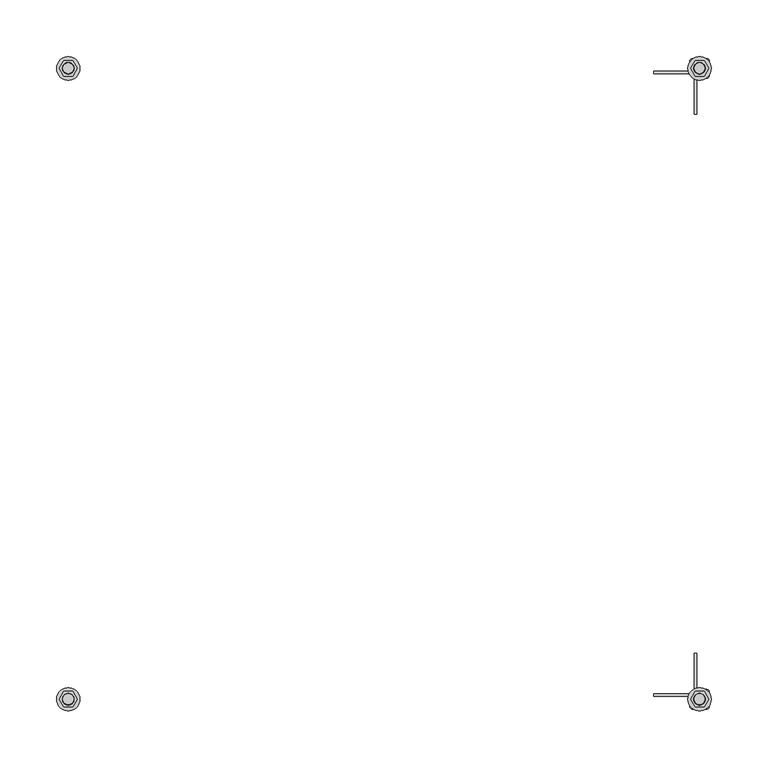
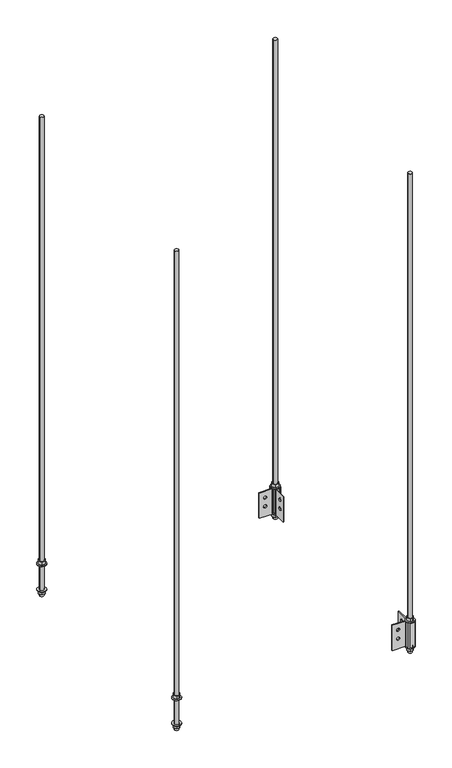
"""IFC4 building model written with IfcOpenShell, lengths in millimetres: proxy geometry."""

from ifc_helpers import new_model, si_unit, point, frame, frame_2d, origin, place, context, project, spatial, polyline, circle_curve, trimmed, segment, composite_curve, outline, extrude, source, transform, mapped, element, save
from ifc_brep_helpers import plane_surface, cylinder_surface, revolved_surface, advanced_brep


def generic_models_5859b9d8(model_context):
    return source(origin(), model_context, "Body", "SolidModel", [
        extrude(outline(composite_curve([segment(trimmed(circle_curve(frame_2d((-278.914225, 549.97985)), 10.31875), [point((-289.232975, 549.97985))], [point((-268.595475, 549.97985))], False, "CARTESIAN"), True, "CONTINUOUS"), segment(trimmed(circle_curve(frame_2d((-278.914225, 549.97985)), 10.31875), [point((-268.595475, 549.97985))], [point((-289.232975, 549.97985))], False, "CARTESIAN"), True, "CONTINUOUS")], self_intersect=False), holes=[composite_curve([segment(trimmed(circle_curve(frame_2d((-278.914225, 549.97985)), 5.159375), [point((-284.0736, 549.97985))], [point((-273.75485, 549.97985))], True, "CARTESIAN"), True, "CONTINUOUS"), segment(trimmed(circle_curve(frame_2d((-278.914225, 549.97985)), 5.159375), [point((-273.75485, 549.97985))], [point((-284.0736, 549.97985))], True, "CARTESIAN"), True, "CONTINUOUS")], self_intersect=False)]), frame((0.0, 0.0, -1.5875), z_axis=(0.0, 0.0, 1.0), x_axis=(1.0, 0.0, 0.0)), (0.0, 0.0, 1.0), 1.5875),
        extrude(outline(polyline([(-282.882975, 556.8539266), (-274.945475, 556.8539266), (-270.976725, 549.97985), (-274.945475, 543.1057734), (-282.882975, 543.1057734), (-286.851725, 549.97985), (-282.882975, 556.8539266)]), holes=[composite_curve([segment(trimmed(circle_curve(frame_2d((-278.914225, 549.97985)), 5.159375), [point((-284.0736, 549.97985))], [point((-273.75485, 549.97985))], True, "CARTESIAN"), True, "CONTINUOUS"), segment(trimmed(circle_curve(frame_2d((-278.914225, 549.97985)), 5.159375), [point((-273.75485, 549.97985))], [point((-284.0736, 549.97985))], True, "CARTESIAN"), True, "CONTINUOUS")], self_intersect=False)]), frame((0.0, 0.0, -9.525), z_axis=(0.0, 0.0, 1.0), x_axis=(1.0, 0.0, 0.0)), (0.0, 0.0, 1.0), 7.9375),
        extrude(outline(composite_curve([segment(trimmed(circle_curve(frame_2d((278.914225, 549.97985)), 10.31875), [point((268.595475, 549.97985))], [point((289.232975, 549.97985))], False, "CARTESIAN"), True, "CONTINUOUS"), segment(trimmed(circle_curve(frame_2d((278.914225, 549.97985)), 10.31875), [point((289.232975, 549.97985))], [point((268.595475, 549.97985))], False, "CARTESIAN"), True, "CONTINUOUS")], self_intersect=False), holes=[composite_curve([segment(trimmed(circle_curve(frame_2d((278.914225, 549.97985)), 5.159375), [point((273.75485, 549.97985))], [point((284.0736, 549.97985))], True, "CARTESIAN"), True, "CONTINUOUS"), segment(trimmed(circle_curve(frame_2d((278.914225, 549.97985)), 5.159375), [point((284.0736, 549.97985))], [point((273.75485, 549.97985))], True, "CARTESIAN"), True, "CONTINUOUS")], self_intersect=False)]), frame((0.0, 0.0, -1.5875), z_axis=(0.0, 0.0, 1.0), x_axis=(1.0, 0.0, 0.0)), (0.0, 0.0, 1.0), 1.5875),
        extrude(outline(polyline([(274.945475, 556.8539266), (282.882975, 556.8539266), (286.851725, 549.97985), (282.882975, 543.1057734), (274.945475, 543.1057734), (270.976725, 549.97985), (274.945475, 556.8539266)]), holes=[composite_curve([segment(trimmed(circle_curve(frame_2d((278.914225, 549.97985)), 5.159375), [point((273.75485, 549.97985))], [point((284.0736, 549.97985))], True, "CARTESIAN"), True, "CONTINUOUS"), segment(trimmed(circle_curve(frame_2d((278.914225, 549.97985)), 5.159375), [point((284.0736, 549.97985))], [point((273.75485, 549.97985))], True, "CARTESIAN"), True, "CONTINUOUS")], self_intersect=False)]), frame((0.0, 0.0, -9.525), z_axis=(0.0, 0.0, 1.0), x_axis=(1.0, 0.0, 0.0)), (0.0, 0.0, 1.0), 7.9375),
        extrude(outline(composite_curve([segment(trimmed(circle_curve(frame_2d((-278.914225, 549.97985)), 10.31875), [point((-289.232975, 549.97985))], [point((-268.595475, 549.97985))], False, "CARTESIAN"), True, "CONTINUOUS"), segment(trimmed(circle_curve(frame_2d((-278.914225, 549.97985)), 10.31875), [point((-268.595475, 549.97985))], [point((-289.232975, 549.97985))], False, "CARTESIAN"), True, "CONTINUOUS")], self_intersect=False), holes=[composite_curve([segment(trimmed(circle_curve(frame_2d((-278.914225, 549.97985)), 5.159375), [point((-284.0736, 549.97985))], [point((-273.75485, 549.97985))], True, "CARTESIAN"), True, "CONTINUOUS"), segment(trimmed(circle_curve(frame_2d((-278.914225, 549.97985)), 5.159375), [point((-273.75485, 549.97985))], [point((-284.0736, 549.97985))], True, "CARTESIAN"), True, "CONTINUOUS")], self_intersect=False)]), frame((0.0, 0.0, 63.5), z_axis=(0.0, 0.0, 1.0), x_axis=(1.0, 0.0, 0.0)), (0.0, 0.0, 1.0), 1.5875),
        extrude(outline(polyline([(-282.882975, 556.8539266), (-274.945475, 556.8539266), (-270.976725, 549.97985), (-274.945475, 543.1057734), (-282.882975, 543.1057734), (-286.851725, 549.97985), (-282.882975, 556.8539266)]), holes=[composite_curve([segment(trimmed(circle_curve(frame_2d((-278.914225, 549.97985)), 5.159375), [point((-284.0736, 549.97985))], [point((-273.75485, 549.97985))], True, "CARTESIAN"), True, "CONTINUOUS"), segment(trimmed(circle_curve(frame_2d((-278.914225, 549.97985)), 5.159375), [point((-273.75485, 549.97985))], [point((-284.0736, 549.97985))], True, "CARTESIAN"), True, "CONTINUOUS")], self_intersect=False)]), frame((0.0, 0.0, 65.0875), z_axis=(0.0, 0.0, 1.0), x_axis=(1.0, 0.0, 0.0)), (0.0, 0.0, 1.0), 7.9375),
        extrude(outline(composite_curve([segment(trimmed(circle_curve(frame_2d((278.914225, 549.97985)), 10.31875), [point((268.595475, 549.97985))], [point((289.232975, 549.97985))], False, "CARTESIAN"), True, "CONTINUOUS"), segment(trimmed(circle_curve(frame_2d((278.914225, 549.97985)), 10.31875), [point((289.232975, 549.97985))], [point((268.595475, 549.97985))], False, "CARTESIAN"), True, "CONTINUOUS")], self_intersect=False), holes=[composite_curve([segment(trimmed(circle_curve(frame_2d((278.914225, 549.97985)), 5.159375), [point((273.75485, 549.97985))], [point((284.0736, 549.97985))], True, "CARTESIAN"), True, "CONTINUOUS"), segment(trimmed(circle_curve(frame_2d((278.914225, 549.97985)), 5.159375), [point((284.0736, 549.97985))], [point((273.75485, 549.97985))], True, "CARTESIAN"), True, "CONTINUOUS")], self_intersect=False)]), frame((0.0, 0.0, 63.5), z_axis=(0.0, 0.0, 1.0), x_axis=(1.0, 0.0, 0.0)), (0.0, 0.0, 1.0), 1.5875),
        extrude(outline(polyline([(274.945475, 556.8539266), (282.882975, 556.8539266), (286.851725, 549.97985), (282.882975, 543.1057734), (274.945475, 543.1057734), (270.976725, 549.97985), (274.945475, 556.8539266)]), holes=[composite_curve([segment(trimmed(circle_curve(frame_2d((278.914225, 549.97985)), 5.159375), [point((273.75485, 549.97985))], [point((284.0736, 549.97985))], True, "CARTESIAN"), True, "CONTINUOUS"), segment(trimmed(circle_curve(frame_2d((278.914225, 549.97985)), 5.159375), [point((284.0736, 549.97985))], [point((273.75485, 549.97985))], True, "CARTESIAN"), True, "CONTINUOUS")], self_intersect=False)]), frame((0.0, 0.0, 65.0875), z_axis=(0.0, 0.0, 1.0), x_axis=(1.0, 0.0, 0.0)), (0.0, 0.0, 1.0), 7.9375),
        extrude(outline(composite_curve([segment(trimmed(circle_curve(frame_2d((278.914225, -7.8486)), 10.31875), [point((268.595475, -7.8486))], [point((289.232975, -7.8486))], False, "CARTESIAN"), True, "CONTINUOUS"), segment(trimmed(circle_curve(frame_2d((278.914225, -7.8486)), 10.31875), [point((289.232975, -7.8486))], [point((268.595475, -7.8486))], False, "CARTESIAN"), True, "CONTINUOUS")], self_intersect=False), holes=[composite_curve([segment(trimmed(circle_curve(frame_2d((278.914225, -7.8486)), 5.159375), [point((273.75485, -7.8486))], [point((284.0736, -7.8486))], True, "CARTESIAN"), True, "CONTINUOUS"), segment(trimmed(circle_curve(frame_2d((278.914225, -7.8486)), 5.159375), [point((284.0736, -7.8486))], [point((273.75485, -7.8486))], True, "CARTESIAN"), True, "CONTINUOUS")], self_intersect=False)]), frame((0.0, 0.0, -1.5875), z_axis=(0.0, 0.0, 1.0), x_axis=(1.0, 0.0, 0.0)), (0.0, 0.0, 1.0), 1.5875),
        extrude(outline(polyline([(274.945475, -0.9745234), (282.882975, -0.9745234), (286.851725, -7.8486), (282.882975, -14.7226766), (274.945475, -14.7226766), (270.976725, -7.8486), (274.945475, -0.9745234)]), holes=[composite_curve([segment(trimmed(circle_curve(frame_2d((278.914225, -7.8486)), 5.159375), [point((273.75485, -7.8486))], [point((284.0736, -7.8486))], True, "CARTESIAN"), True, "CONTINUOUS"), segment(trimmed(circle_curve(frame_2d((278.914225, -7.8486)), 5.159375), [point((284.0736, -7.8486))], [point((273.75485, -7.8486))], True, "CARTESIAN"), True, "CONTINUOUS")], self_intersect=False)]), frame((0.0, 0.0, -9.525), z_axis=(0.0, 0.0, 1.0), x_axis=(1.0, 0.0, 0.0)), (0.0, 0.0, 1.0), 7.9375),
        extrude(outline(composite_curve([segment(trimmed(circle_curve(frame_2d((278.914225, -7.8486)), 10.31875), [point((268.595475, -7.8486))], [point((289.232975, -7.8486))], False, "CARTESIAN"), True, "CONTINUOUS"), segment(trimmed(circle_curve(frame_2d((278.914225, -7.8486)), 10.31875), [point((289.232975, -7.8486))], [point((268.595475, -7.8486))], False, "CARTESIAN"), True, "CONTINUOUS")], self_intersect=False), holes=[composite_curve([segment(trimmed(circle_curve(frame_2d((278.914225, -7.8486)), 5.159375), [point((273.75485, -7.8486))], [point((284.0736, -7.8486))], True, "CARTESIAN"), True, "CONTINUOUS"), segment(trimmed(circle_curve(frame_2d((278.914225, -7.8486)), 5.159375), [point((284.0736, -7.8486))], [point((273.75485, -7.8486))], True, "CARTESIAN"), True, "CONTINUOUS")], self_intersect=False)]), frame((0.0, 0.0, 63.5), z_axis=(0.0, 0.0, 1.0), x_axis=(1.0, 0.0, 0.0)), (0.0, 0.0, 1.0), 1.5875),
        extrude(outline(polyline([(274.945475, -0.9745234), (282.882975, -0.9745234), (286.851725, -7.8486), (282.882975, -14.7226766), (274.945475, -14.7226766), (270.976725, -7.8486), (274.945475, -0.9745234)]), holes=[composite_curve([segment(trimmed(circle_curve(frame_2d((278.914225, -7.8486)), 5.159375), [point((273.75485, -7.8486))], [point((284.0736, -7.8486))], True, "CARTESIAN"), True, "CONTINUOUS"), segment(trimmed(circle_curve(frame_2d((278.914225, -7.8486)), 5.159375), [point((284.0736, -7.8486))], [point((273.75485, -7.8486))], True, "CARTESIAN"), True, "CONTINUOUS")], self_intersect=False)]), frame((0.0, 0.0, 65.0875), z_axis=(0.0, 0.0, 1.0), x_axis=(1.0, 0.0, 0.0)), (0.0, 0.0, 1.0), 7.9375),
        extrude(outline(composite_curve([segment(trimmed(circle_curve(frame_2d((-278.914225, -7.8486)), 10.31875), [point((-289.232975, -7.8486))], [point((-268.595475, -7.8486))], False, "CARTESIAN"), True, "CONTINUOUS"), segment(trimmed(circle_curve(frame_2d((-278.914225, -7.8486)), 10.31875), [point((-268.595475, -7.8486))], [point((-289.232975, -7.8486))], False, "CARTESIAN"), True, "CONTINUOUS")], self_intersect=False), holes=[composite_curve([segment(trimmed(circle_curve(frame_2d((-278.914225, -7.8486)), 5.159375), [point((-284.0736, -7.8486))], [point((-273.75485, -7.8486))], True, "CARTESIAN"), True, "CONTINUOUS"), segment(trimmed(circle_curve(frame_2d((-278.914225, -7.8486)), 5.159375), [point((-273.75485, -7.8486))], [point((-284.0736, -7.8486))], True, "CARTESIAN"), True, "CONTINUOUS")], self_intersect=False)]), frame((0.0, 0.0, 63.5), z_axis=(0.0, 0.0, 1.0), x_axis=(1.0, 0.0, 0.0)), (0.0, 0.0, 1.0), 1.5875),
        extrude(outline(polyline([(-282.882975, -0.9745234), (-274.945475, -0.9745234), (-270.976725, -7.8486), (-274.945475, -14.7226766), (-282.882975, -14.7226766), (-286.851725, -7.8486), (-282.882975, -0.9745234)]), holes=[composite_curve([segment(trimmed(circle_curve(frame_2d((-278.914225, -7.8486)), 5.159375), [point((-284.0736, -7.8486))], [point((-273.75485, -7.8486))], True, "CARTESIAN"), True, "CONTINUOUS"), segment(trimmed(circle_curve(frame_2d((-278.914225, -7.8486)), 5.159375), [point((-273.75485, -7.8486))], [point((-284.0736, -7.8486))], True, "CARTESIAN"), True, "CONTINUOUS")], self_intersect=False)]), frame((0.0, 0.0, 65.0875), z_axis=(0.0, 0.0, 1.0), x_axis=(1.0, 0.0, 0.0)), (0.0, 0.0, 1.0), 7.9375),
        extrude(outline(composite_curve([segment(trimmed(circle_curve(frame_2d((-278.914225, -7.8486)), 10.31875), [point((-289.232975, -7.8486))], [point((-268.595475, -7.8486))], False, "CARTESIAN"), True, "CONTINUOUS"), segment(trimmed(circle_curve(frame_2d((-278.914225, -7.8486)), 10.31875), [point((-268.595475, -7.8486))], [point((-289.232975, -7.8486))], False, "CARTESIAN"), True, "CONTINUOUS")], self_intersect=False), holes=[composite_curve([segment(trimmed(circle_curve(frame_2d((-278.914225, -7.8486)), 5.159375), [point((-284.0736, -7.8486))], [point((-273.75485, -7.8486))], True, "CARTESIAN"), True, "CONTINUOUS"), segment(trimmed(circle_curve(frame_2d((-278.914225, -7.8486)), 5.159375), [point((-273.75485, -7.8486))], [point((-284.0736, -7.8486))], True, "CARTESIAN"), True, "CONTINUOUS")], self_intersect=False)]), frame((0.0, 0.0, -1.5875), z_axis=(0.0, 0.0, 1.0), x_axis=(1.0, 0.0, 0.0)), (0.0, 0.0, 1.0), 1.5875),
        extrude(outline(polyline([(-282.882975, -0.9745234), (-274.945475, -0.9745234), (-270.976725, -7.8486), (-274.945475, -14.7226766), (-282.882975, -14.7226766), (-286.851725, -7.8486), (-282.882975, -0.9745234)]), holes=[composite_curve([segment(trimmed(circle_curve(frame_2d((-278.914225, -7.8486)), 5.159375), [point((-284.0736, -7.8486))], [point((-273.75485, -7.8486))], True, "CARTESIAN"), True, "CONTINUOUS"), segment(trimmed(circle_curve(frame_2d((-278.914225, -7.8486)), 5.159375), [point((-273.75485, -7.8486))], [point((-284.0736, -7.8486))], True, "CARTESIAN"), True, "CONTINUOUS")], self_intersect=False)]), frame((0.0, 0.0, -9.525), z_axis=(0.0, 0.0, 1.0), x_axis=(1.0, 0.0, 0.0)), (0.0, 0.0, 1.0), 7.9375),
        extrude(outline(composite_curve([segment(trimmed(circle_curve(frame_2d((278.914225, 549.97985)), 4.7625), [point((274.151725, 549.97985))], [point((283.676725, 549.97985))], False, "CARTESIAN"), True, "CONTINUOUS"), segment(trimmed(circle_curve(frame_2d((278.914225, 549.97985)), 4.7625), [point((283.676725, 549.97985))], [point((274.151725, 549.97985))], False, "CARTESIAN"), True, "CONTINUOUS")], self_intersect=False)), frame((0.0, 0.0, -15.875), z_axis=(0.0, 0.0, 1.0), x_axis=(1.0, 0.0, 0.0)), (0.0, 0.0, 1.0), 1209.675),
        extrude(outline(composite_curve([segment(trimmed(circle_curve(frame_2d((-278.914225, 549.97985)), 4.7625), [point((-283.676725, 549.97985))], [point((-274.151725, 549.97985))], False, "CARTESIAN"), True, "CONTINUOUS"), segment(trimmed(circle_curve(frame_2d((-278.914225, 549.97985)), 4.7625), [point((-274.151725, 549.97985))], [point((-283.676725, 549.97985))], False, "CARTESIAN"), True, "CONTINUOUS")], self_intersect=False)), frame((0.0, 0.0, -15.875), z_axis=(0.0, 0.0, 1.0), x_axis=(1.0, 0.0, 0.0)), (0.0, 0.0, 1.0), 1209.675),
        extrude(outline(composite_curve([segment(trimmed(circle_curve(frame_2d((278.914225, -7.8486)), 4.7625), [point((274.151725, -7.8486))], [point((283.676725, -7.8486))], False, "CARTESIAN"), True, "CONTINUOUS"), segment(trimmed(circle_curve(frame_2d((278.914225, -7.8486)), 4.7625), [point((283.676725, -7.8486))], [point((274.151725, -7.8486))], False, "CARTESIAN"), True, "CONTINUOUS")], self_intersect=False)), frame((0.0, 0.0, -15.875), z_axis=(0.0, 0.0, 1.0), x_axis=(1.0, 0.0, 0.0)), (0.0, 0.0, 1.0), 1209.675),
        extrude(outline(composite_curve([segment(trimmed(circle_curve(frame_2d((-278.914225, -7.8486)), 4.7625), [point((-283.676725, -7.8486))], [point((-274.151725, -7.8486))], False, "CARTESIAN"), True, "CONTINUOUS"), segment(trimmed(circle_curve(frame_2d((-278.914225, -7.8486)), 4.7625), [point((-274.151725, -7.8486))], [point((-283.676725, -7.8486))], False, "CARTESIAN"), True, "CONTINUOUS")], self_intersect=False)), frame((0.0, 0.0, -15.875), z_axis=(0.0, 0.0, 1.0), x_axis=(1.0, 0.0, 0.0)), (0.0, 0.0, 1.0), 1209.675),
        advanced_brep(
        [(238.248825, 547.31285, 63.5), (238.248825, 545.30625, 63.5), (269.389225, 545.30625, 63.5), (272.157825, 548.07485, 63.5), (272.157825, 555.97425, 63.5), (272.919825, 556.73625, 63.5), (284.908625, 556.73625, 63.5), (285.670625, 555.97425, 63.5), (285.670625, 543.98545, 63.5), (284.908625, 543.22345, 63.5), (277.009225, 543.22345, 63.5), (274.240625, 540.45485, 63.5), (274.240625, 509.31445, 63.5), (276.247225, 509.31445, 63.5), (276.247225, 540.45485, 63.5), (277.009225, 541.21685, 63.5), (284.908625, 541.21685, 63.5), (287.677225, 543.98545, 63.5), (287.677225, 555.97425, 63.5), (284.908625, 558.74285, 63.5), (272.919825, 558.74285, 63.5), (270.151225, 555.97425, 63.5), (270.151225, 548.07485, 63.5), (269.389225, 547.31285, 63.5), (238.248825, 547.31285, 0.0), (269.389225, 547.31285, 0.0), (270.151225, 548.07485, 0.0), (270.151225, 555.97425, 0.0), (272.919825, 558.74285, 0.0), (284.908625, 558.74285, 0.0), (287.677225, 555.97425, 0.0), (287.677225, 543.98545, 0.0), (284.908625, 541.21685, 0.0), (277.009225, 541.21685, 0.0), (276.247225, 540.45485, 0.0), (276.247225, 509.31445, 0.0), (274.240625, 509.31445, 0.0), (274.240625, 540.45485, 0.0), (277.009225, 543.22345, 0.0), (284.908625, 543.22345, 0.0), (285.670625, 543.98545, 0.0), (285.670625, 555.97425, 0.0), (284.908625, 556.73625, 0.0), (272.919825, 556.73625, 0.0), (272.157825, 555.97425, 0.0), (272.157825, 548.07485, 0.0), (269.389225, 545.30625, 0.0), (238.248825, 545.30625, 0.0), (255.584325, 545.30625, 25.4), (248.446925, 545.30625, 25.4), (255.584325, 545.30625, 47.625), (248.446925, 545.30625, 47.625), (274.240625, 519.51255, 47.625), (274.240625, 526.64995, 47.625), (274.240625, 519.51255, 25.4), (274.240625, 526.64995, 25.4), (276.247225, 526.64995, 47.625), (276.247225, 519.51255, 47.625), (276.247225, 526.64995, 25.4), (276.247225, 519.51255, 25.4), (248.446925, 547.31285, 25.4), (255.584325, 547.31285, 25.4), (248.446925, 547.31285, 47.625), (255.584325, 547.31285, 47.625)],
        [
            (0, 1),
            (1, 2),
            (2, 3, circle_curve(frame((269.389225, 548.07485, 63.5), z_axis=(0.0, 0.0, 1.0), x_axis=(1.0, 0.0, 0.0)), 2.7686)),
            (3, 4),
            (4, 5, circle_curve(frame((272.919825, 555.97425, 63.5), z_axis=(0.0, 0.0, -1.0), x_axis=(1.0, 0.0, 0.0)), 0.762)),
            (5, 6),
            (6, 7, circle_curve(frame((284.908625, 555.97425, 63.5), z_axis=(0.0, 0.0, -1.0), x_axis=(1.0, 0.0, 0.0)), 0.762)),
            (7, 8),
            (8, 9, circle_curve(frame((284.908625, 543.98545, 63.5), z_axis=(0.0, 0.0, -1.0), x_axis=(1.0, 0.0, 0.0)), 0.762)),
            (9, 10),
            (10, 11, circle_curve(frame((277.009225, 540.45485, 63.5), z_axis=(0.0, 0.0, 1.0), x_axis=(1.0, 0.0, 0.0)), 2.7686)),
            (11, 12),
            (12, 13),
            (13, 14),
            (14, 15, circle_curve(frame((277.009225, 540.45485, 63.5), z_axis=(0.0, 0.0, -1.0), x_axis=(1.0, 0.0, 0.0)), 0.762)),
            (15, 16),
            (16, 17, circle_curve(frame((284.908625, 543.98545, 63.5), z_axis=(0.0, 0.0, 1.0), x_axis=(1.0, 0.0, 0.0)), 2.7686)),
            (17, 18),
            (18, 19, circle_curve(frame((284.908625, 555.97425, 63.5), z_axis=(0.0, 0.0, 1.0), x_axis=(1.0, 0.0, 0.0)), 2.7686)),
            (19, 20),
            (20, 21, circle_curve(frame((272.919825, 555.97425, 63.5), z_axis=(0.0, 0.0, 1.0), x_axis=(1.0, 0.0, 0.0)), 2.7686)),
            (21, 22),
            (22, 23, circle_curve(frame((269.389225, 548.07485, 63.5), z_axis=(0.0, 0.0, -1.0), x_axis=(1.0, 0.0, 0.0)), 0.762)),
            (23, 0),
            (24, 25),
            (25, 26, circle_curve(frame((269.389225, 548.07485, 0.0), z_axis=(0.0, 0.0, 1.0), x_axis=(1.0, 0.0, 0.0)), 0.762)),
            (26, 27),
            (27, 28, circle_curve(frame((272.919825, 555.97425, 0.0), z_axis=(0.0, 0.0, -1.0), x_axis=(1.0, 0.0, 0.0)), 2.7686)),
            (28, 29),
            (29, 30, circle_curve(frame((284.908625, 555.97425, 0.0), z_axis=(0.0, 0.0, -1.0), x_axis=(1.0, 0.0, 0.0)), 2.7686)),
            (30, 31),
            (31, 32, circle_curve(frame((284.908625, 543.98545, 0.0), z_axis=(0.0, 0.0, -1.0), x_axis=(1.0, 0.0, 0.0)), 2.7686)),
            (32, 33),
            (33, 34, circle_curve(frame((277.009225, 540.45485, 0.0), z_axis=(0.0, 0.0, 1.0), x_axis=(1.0, 0.0, 0.0)), 0.762)),
            (34, 35),
            (35, 36),
            (36, 37),
            (37, 38, circle_curve(frame((277.009225, 540.45485, 0.0), z_axis=(0.0, 0.0, -1.0), x_axis=(1.0, 0.0, 0.0)), 2.7686)),
            (38, 39),
            (39, 40, circle_curve(frame((284.908625, 543.98545, 0.0), z_axis=(0.0, 0.0, 1.0), x_axis=(1.0, 0.0, 0.0)), 0.762)),
            (40, 41),
            (41, 42, circle_curve(frame((284.908625, 555.97425, 0.0), z_axis=(0.0, 0.0, 1.0), x_axis=(1.0, 0.0, 0.0)), 0.762)),
            (42, 43),
            (43, 44, circle_curve(frame((272.919825, 555.97425, 0.0), z_axis=(0.0, 0.0, 1.0), x_axis=(1.0, 0.0, 0.0)), 0.762)),
            (44, 45),
            (45, 46, circle_curve(frame((269.389225, 548.07485, 0.0), z_axis=(0.0, 0.0, -1.0), x_axis=(1.0, 0.0, 0.0)), 2.7686)),
            (46, 47),
            (47, 24),
            (0, 24),
            (47, 1),
            (46, 2),
            (48, 49, circle_curve(frame((252.015625, 545.30625, 25.4), z_axis=(0.0, 1.0, 0.0), x_axis=(-1.0, 0.0, 0.0)), 3.5687)),
            (49, 48, circle_curve(frame((252.015625, 545.30625, 25.4), z_axis=(0.0, 1.0, 0.0), x_axis=(-1.0, 0.0, 0.0)), 3.5687)),
            (50, 51, circle_curve(frame((252.015625, 545.30625, 47.625), z_axis=(0.0, 1.0, 0.0), x_axis=(-1.0, 0.0, 0.0)), 3.5687)),
            (51, 50, circle_curve(frame((252.015625, 545.30625, 47.625), z_axis=(0.0, 1.0, 0.0), x_axis=(-1.0, 0.0, 0.0)), 3.5687)),
            (45, 3),
            (44, 4),
            (43, 5),
            (42, 6),
            (41, 7),
            (40, 8),
            (39, 9),
            (38, 10),
            (37, 11),
            (36, 12),
            (52, 53, circle_curve(frame((274.240625, 523.08125, 47.625), z_axis=(1.0, 0.0, 0.0), x_axis=(0.0, -1.0, 0.0)), 3.5687)),
            (53, 52, circle_curve(frame((274.240625, 523.08125, 47.625), z_axis=(1.0, 0.0, 0.0), x_axis=(0.0, -1.0, 0.0)), 3.5687)),
            (54, 55, circle_curve(frame((274.240625, 523.08125, 25.4), z_axis=(1.0, 0.0, 0.0), x_axis=(0.0, -1.0, 0.0)), 3.5687)),
            (55, 54, circle_curve(frame((274.240625, 523.08125, 25.4), z_axis=(1.0, 0.0, 0.0), x_axis=(0.0, -1.0, 0.0)), 3.5687)),
            (35, 13),
            (34, 14),
            (56, 57, circle_curve(frame((276.247225, 523.08125, 47.625), z_axis=(-1.0, 0.0, 0.0), x_axis=(0.0, -1.0, 0.0)), 3.5687)),
            (57, 56, circle_curve(frame((276.247225, 523.08125, 47.625), z_axis=(-1.0, 0.0, 0.0), x_axis=(0.0, -1.0, 0.0)), 3.5687)),
            (58, 59, circle_curve(frame((276.247225, 523.08125, 25.4), z_axis=(-1.0, 0.0, 0.0), x_axis=(0.0, -1.0, 0.0)), 3.5687)),
            (59, 58, circle_curve(frame((276.247225, 523.08125, 25.4), z_axis=(-1.0, 0.0, 0.0), x_axis=(0.0, -1.0, 0.0)), 3.5687)),
            (33, 15),
            (32, 16),
            (31, 17),
            (30, 18),
            (29, 19),
            (28, 20),
            (27, 21),
            (26, 22),
            (25, 23),
            (60, 61, circle_curve(frame((252.015625, 547.31285, 25.4), z_axis=(0.0, -1.0, 0.0), x_axis=(-1.0, 0.0, 0.0)), 3.5687)),
            (61, 60, circle_curve(frame((252.015625, 547.31285, 25.4), z_axis=(0.0, -1.0, 0.0), x_axis=(-1.0, 0.0, 0.0)), 3.5687)),
            (62, 63, circle_curve(frame((252.015625, 547.31285, 47.625), z_axis=(0.0, -1.0, 0.0), x_axis=(-1.0, 0.0, 0.0)), 3.5687)),
            (63, 62, circle_curve(frame((252.015625, 547.31285, 47.625), z_axis=(0.0, -1.0, 0.0), x_axis=(-1.0, 0.0, 0.0)), 3.5687)),
            (56, 53),
            (52, 57),
            (58, 55),
            (54, 59),
            (48, 61),
            (60, 49),
            (50, 63),
            (62, 51),
        ],
        [
            plane_surface(frame((238.248825, 545.30625, 63.5), z_axis=(0.0, 0.0, 1.0), x_axis=(0.0, -1.0, 0.0))),
            plane_surface(frame((238.248825, 545.30625, 0.0), z_axis=(0.0, 0.0, -1.0), x_axis=(0.0, 1.0, 0.0))),
            plane_surface(frame((238.248825, 547.31285, 63.5), z_axis=(-1.0, 0.0, 0.0), x_axis=(0.0, 0.0, -1.0))),
            plane_surface(frame((238.248825, 545.30625, 63.5), z_axis=(0.0, -1.0, 0.0), x_axis=(0.0, 0.0, -1.0))),
            cylinder_surface(frame((269.389225, 548.07485, 0.0), z_axis=(0.0, 0.0, 1.0), x_axis=(1.0, 0.0, 0.0)), 2.7686),
            plane_surface(frame((272.157825, 548.07485, 63.5), z_axis=(1.0, 0.0, 0.0), x_axis=(0.0, 0.0, -1.0))),
            revolved_surface(polyline([(273.681825, 555.97425, 0.0), (273.681825, 555.97425, 63.5)]), (272.919825, 555.97425, 0.0), (0.0, 0.0, -1.0)),
            plane_surface(frame((272.919825, 556.73625, 63.5), z_axis=(0.0, -1.0, 0.0), x_axis=(0.0, 0.0, -1.0))),
            revolved_surface(polyline([(285.670625, 555.97425, 0.0), (285.670625, 555.97425, 63.5)]), (284.908625, 555.97425, 0.0), (0.0, 0.0, -1.0)),
            plane_surface(frame((285.670625, 555.97425, 63.5), z_axis=(-1.0, 0.0, 0.0), x_axis=(0.0, 0.0, -1.0))),
            revolved_surface(polyline([(285.670625, 543.98545, 0.0), (285.670625, 543.98545, 63.5)]), (284.908625, 543.98545, 0.0), (0.0, 0.0, -1.0)),
            plane_surface(frame((284.908625, 543.22345, 63.5), z_axis=(0.0, 1.0, 0.0), x_axis=(0.0, 0.0, -1.0))),
            cylinder_surface(frame((277.009225, 540.45485, 0.0), z_axis=(0.0, 0.0, 1.0), x_axis=(1.0, 0.0, 0.0)), 2.7686),
            plane_surface(frame((274.240625, 540.45485, 63.5), z_axis=(-1.0, 0.0, 0.0), x_axis=(0.0, 0.0, -1.0))),
            plane_surface(frame((274.240625, 509.31445, 63.5), z_axis=(0.0, -1.0, 0.0), x_axis=(0.0, 0.0, -1.0))),
            plane_surface(frame((276.247225, 509.31445, 63.5), z_axis=(1.0, 0.0, 0.0), x_axis=(0.0, 0.0, -1.0))),
            revolved_surface(polyline([(277.771225, 540.45485, 0.0), (277.771225, 540.45485, 63.5)]), (277.009225, 540.45485, 0.0), (0.0, 0.0, -1.0)),
            plane_surface(frame((277.009225, 541.21685, 63.5), z_axis=(0.0, -1.0, 0.0), x_axis=(0.0, 0.0, -1.0))),
            cylinder_surface(frame((284.908625, 543.98545, 0.0), z_axis=(0.0, 0.0, 1.0), x_axis=(1.0, 0.0, 0.0)), 2.7686),
            plane_surface(frame((287.677225, 543.98545, 63.5), z_axis=(1.0, 0.0, 0.0), x_axis=(0.0, 0.0, -1.0))),
            cylinder_surface(frame((284.908625, 555.97425, 0.0), z_axis=(0.0, 0.0, 1.0), x_axis=(1.0, 0.0, 0.0)), 2.7686),
            plane_surface(frame((284.908625, 558.74285, 63.5), z_axis=(0.0, 1.0, 0.0), x_axis=(0.0, 0.0, -1.0))),
            cylinder_surface(frame((272.919825, 555.97425, 0.0), z_axis=(0.0, 0.0, 1.0), x_axis=(1.0, 0.0, 0.0)), 2.7686),
            plane_surface(frame((270.151225, 555.97425, 63.5), z_axis=(-1.0, 0.0, 0.0), x_axis=(0.0, 0.0, -1.0))),
            revolved_surface(polyline([(270.151225, 548.07485, 0.0), (270.151225, 548.07485, 63.5)]), (269.389225, 548.07485, 0.0), (0.0, 0.0, -1.0)),
            plane_surface(frame((269.389225, 547.31285, 63.5), z_axis=(0.0, 1.0, 0.0), x_axis=(0.0, 0.0, -1.0))),
            revolved_surface(polyline([(274.240625, 519.5125499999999, 47.625), (276.247225, 519.5125499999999, 47.625)]), (278.914225, 523.08125, 47.625), (-1.0, 0.0, 0.0)),
            revolved_surface(polyline([(274.240625, 519.5125499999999, 25.4), (276.247225, 519.5125499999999, 25.4)]), (278.914225, 523.08125, 25.4), (-1.0, 0.0, 0.0)),
            revolved_surface(polyline([(248.446925, 547.31285, 25.4), (248.446925, 545.30625, 25.4)]), (252.015625, 542.13125, 25.4), (0.0, 1.0, 0.0)),
            revolved_surface(polyline([(248.446925, 547.31285, 47.625), (248.446925, 545.30625, 47.625)]), (252.015625, 549.97985, 47.625), (0.0, 1.0, 0.0)),
        ],
        [
            (0, [[1, 2, 3, 4, 5, 6, 7, 8, 9, 10, 11, 12, 13, 14, 15, 16, 17, 18, 19, 20, 21, 22, 23, 24]]),
            (1, [[25, 26, 27, 28, 29, 30, 31, 32, 33, 34, 35, 36, 37, 38, 39, 40, 41, 42, 43, 44, 45, 46, 47, 48]]),
            (2, [[-1, 49, -48, 50]]),
            (3, [[-2, -50, -47, 51], [52, 53], [54, 55]]),
            (4, [[-3, -51, -46, 56]]),
            (5, [[-4, -56, -45, 57]]),
            (6, [[-5, -57, -44, 58]]),
            (7, [[-6, -58, -43, 59]]),
            (8, [[-7, -59, -42, 60]]),
            (9, [[-8, -60, -41, 61]]),
            (10, [[-9, -61, -40, 62]]),
            (11, [[-10, -62, -39, 63]]),
            (12, [[-11, -63, -38, 64]]),
            (13, [[-12, -64, -37, 65], [66, 67], [68, 69]]),
            (14, [[-13, -65, -36, 70]]),
            (15, [[-14, -70, -35, 71], [72, 73], [74, 75]]),
            (16, [[-15, -71, -34, 76]]),
            (17, [[-16, -76, -33, 77]]),
            (18, [[-17, -77, -32, 78]]),
            (19, [[-18, -78, -31, 79]]),
            (20, [[-19, -79, -30, 80]]),
            (21, [[-20, -80, -29, 81]]),
            (22, [[-21, -81, -28, 82]]),
            (23, [[-22, -82, -27, 83]]),
            (24, [[-23, -83, -26, 84]]),
            (25, [[-24, -84, -25, -49], [85, 86], [87, 88]]),
            (26, [[89, -66, 90, -72]]),
            (26, [[-89, -73, -90, -67]]),
            (27, [[91, -68, 92, -74]]),
            (27, [[-91, -75, -92, -69]]),
            (28, [[93, -85, 94, -52]]),
            (28, [[-93, -53, -94, -86]]),
            (29, [[95, -87, 96, -54]]),
            (29, [[-95, -55, -96, -88]]),
        ],
    ),
        advanced_brep(
        [(276.247225, 32.8168, 63.5), (274.240625, 32.8168, 63.5), (274.240625, 1.6764, 63.5), (277.009225, -1.0922, 63.5), (284.908625, -1.0922, 63.5), (285.670625, -1.8542, 63.5), (285.670625, -13.843, 63.5), (284.908625, -14.605, 63.5), (272.919825, -14.605, 63.5), (272.157825, -13.843, 63.5), (272.157825, -5.9436, 63.5), (269.389225, -3.175, 63.5), (238.248825, -3.175, 63.5), (238.248825, -5.1816, 63.5), (269.389225, -5.1816, 63.5), (270.151225, -5.9436, 63.5), (270.151225, -13.843, 63.5), (272.919825, -16.6116, 63.5), (284.908625, -16.6116, 63.5), (287.677225, -13.843, 63.5), (287.677225, -1.8542, 63.5), (284.908625, 0.9144, 63.5), (277.009225, 0.9144, 63.5), (276.247225, 1.6764, 63.5), (276.247225, 32.8168, 0.0), (276.247225, 1.6764, 0.0), (277.009225, 0.9144, 0.0), (284.908625, 0.9144, 0.0), (287.677225, -1.8542, 0.0), (287.677225, -13.843, 0.0), (284.908625, -16.6116, 0.0), (272.919825, -16.6116, 0.0), (270.151225, -13.843, 0.0), (270.151225, -5.9436, 0.0), (269.389225, -5.1816, 0.0), (238.248825, -5.1816, 0.0), (238.248825, -3.175, 0.0), (269.389225, -3.175, 0.0), (272.157825, -5.9436, 0.0), (272.157825, -13.843, 0.0), (272.919825, -14.605, 0.0), (284.908625, -14.605, 0.0), (285.670625, -13.843, 0.0), (285.670625, -1.8542, 0.0), (284.908625, -1.0922, 0.0), (277.009225, -1.0922, 0.0), (274.240625, 1.6764, 0.0), (274.240625, 32.8168, 0.0), (274.240625, 15.4813, 47.625), (274.240625, 22.6187, 47.625), (274.240625, 15.4813, 25.4), (274.240625, 22.6187, 25.4), (248.446925, -3.175, 47.625), (255.584325, -3.175, 47.625), (248.446925, -3.175, 25.4), (255.584325, -3.175, 25.4), (255.584325, -5.1816, 47.625), (248.446925, -5.1816, 47.625), (255.584325, -5.1816, 25.4), (248.446925, -5.1816, 25.4), (276.247225, 22.6187, 47.625), (276.247225, 15.4813, 47.625), (276.247225, 22.6187, 25.4), (276.247225, 15.4813, 25.4)],
        [
            (0, 1),
            (1, 2),
            (2, 3, circle_curve(frame((277.009225, 1.6764, 63.5), z_axis=(0.0, 0.0, 1.0), x_axis=(1.0, 0.0, 0.0)), 2.7686)),
            (3, 4),
            (4, 5, circle_curve(frame((284.908625, -1.8542, 63.5), z_axis=(0.0, 0.0, -1.0), x_axis=(1.0, 0.0, 0.0)), 0.762)),
            (5, 6),
            (6, 7, circle_curve(frame((284.908625, -13.843, 63.5), z_axis=(0.0, 0.0, -1.0), x_axis=(1.0, 0.0, 0.0)), 0.762)),
            (7, 8),
            (8, 9, circle_curve(frame((272.919825, -13.843, 63.5), z_axis=(0.0, 0.0, -1.0), x_axis=(1.0, 0.0, 0.0)), 0.762)),
            (9, 10),
            (10, 11, circle_curve(frame((269.389225, -5.9436, 63.5), z_axis=(0.0, 0.0, 1.0), x_axis=(1.0, 0.0, 0.0)), 2.7686)),
            (11, 12),
            (12, 13),
            (13, 14),
            (14, 15, circle_curve(frame((269.389225, -5.9436, 63.5), z_axis=(0.0, 0.0, -1.0), x_axis=(1.0, 0.0, 0.0)), 0.762)),
            (15, 16),
            (16, 17, circle_curve(frame((272.919825, -13.843, 63.5), z_axis=(0.0, 0.0, 1.0), x_axis=(1.0, 0.0, 0.0)), 2.7686)),
            (17, 18),
            (18, 19, circle_curve(frame((284.908625, -13.843, 63.5), z_axis=(0.0, 0.0, 1.0), x_axis=(1.0, 0.0, 0.0)), 2.7686)),
            (19, 20),
            (20, 21, circle_curve(frame((284.908625, -1.8542, 63.5), z_axis=(0.0, 0.0, 1.0), x_axis=(1.0, 0.0, 0.0)), 2.7686)),
            (21, 22),
            (22, 23, circle_curve(frame((277.009225, 1.6764, 63.5), z_axis=(0.0, 0.0, -1.0), x_axis=(1.0, 0.0, 0.0)), 0.762)),
            (23, 0),
            (24, 25),
            (25, 26, circle_curve(frame((277.009225, 1.6764, 0.0), z_axis=(0.0, 0.0, 1.0), x_axis=(1.0, 0.0, 0.0)), 0.762)),
            (26, 27),
            (27, 28, circle_curve(frame((284.908625, -1.8542, 0.0), z_axis=(0.0, 0.0, -1.0), x_axis=(1.0, 0.0, 0.0)), 2.7686)),
            (28, 29),
            (29, 30, circle_curve(frame((284.908625, -13.843, 0.0), z_axis=(0.0, 0.0, -1.0), x_axis=(1.0, 0.0, 0.0)), 2.7686)),
            (30, 31),
            (31, 32, circle_curve(frame((272.919825, -13.843, 0.0), z_axis=(0.0, 0.0, -1.0), x_axis=(1.0, 0.0, 0.0)), 2.7686)),
            (32, 33),
            (33, 34, circle_curve(frame((269.389225, -5.9436, 0.0), z_axis=(0.0, 0.0, 1.0), x_axis=(1.0, 0.0, 0.0)), 0.762)),
            (34, 35),
            (35, 36),
            (36, 37),
            (37, 38, circle_curve(frame((269.389225, -5.9436, 0.0), z_axis=(0.0, 0.0, -1.0), x_axis=(1.0, 0.0, 0.0)), 2.7686)),
            (38, 39),
            (39, 40, circle_curve(frame((272.919825, -13.843, 0.0), z_axis=(0.0, 0.0, 1.0), x_axis=(1.0, 0.0, 0.0)), 0.762)),
            (40, 41),
            (41, 42, circle_curve(frame((284.908625, -13.843, 0.0), z_axis=(0.0, 0.0, 1.0), x_axis=(1.0, 0.0, 0.0)), 0.762)),
            (42, 43),
            (43, 44, circle_curve(frame((284.908625, -1.8542, 0.0), z_axis=(0.0, 0.0, 1.0), x_axis=(1.0, 0.0, 0.0)), 0.762)),
            (44, 45),
            (45, 46, circle_curve(frame((277.009225, 1.6764, 0.0), z_axis=(0.0, 0.0, -1.0), x_axis=(1.0, 0.0, 0.0)), 2.7686)),
            (46, 47),
            (47, 24),
            (0, 24),
            (47, 1),
            (46, 2),
            (48, 49, circle_curve(frame((274.240625, 19.05, 47.625), z_axis=(1.0, 0.0, 0.0), x_axis=(0.0, -1.0, 0.0)), 3.5687)),
            (49, 48, circle_curve(frame((274.240625, 19.05, 47.625), z_axis=(1.0, 0.0, 0.0), x_axis=(0.0, -1.0, 0.0)), 3.5687)),
            (50, 51, circle_curve(frame((274.240625, 19.05, 25.4), z_axis=(1.0, 0.0, 0.0), x_axis=(0.0, -1.0, 0.0)), 3.5687)),
            (51, 50, circle_curve(frame((274.240625, 19.05, 25.4), z_axis=(1.0, 0.0, 0.0), x_axis=(0.0, -1.0, 0.0)), 3.5687)),
            (45, 3),
            (44, 4),
            (43, 5),
            (42, 6),
            (41, 7),
            (40, 8),
            (39, 9),
            (38, 10),
            (37, 11),
            (36, 12),
            (52, 53, circle_curve(frame((252.015625, -3.175, 47.625), z_axis=(0.0, -1.0, 0.0), x_axis=(-1.0, 0.0, 0.0)), 3.5687)),
            (53, 52, circle_curve(frame((252.015625, -3.175, 47.625), z_axis=(0.0, -1.0, 0.0), x_axis=(-1.0, 0.0, 0.0)), 3.5687)),
            (54, 55, circle_curve(frame((252.015625, -3.175, 25.4), z_axis=(0.0, -1.0, 0.0), x_axis=(-1.0, 0.0, 0.0)), 3.5687)),
            (55, 54, circle_curve(frame((252.015625, -3.175, 25.4), z_axis=(0.0, -1.0, 0.0), x_axis=(-1.0, 0.0, 0.0)), 3.5687)),
            (35, 13),
            (34, 14),
            (56, 57, circle_curve(frame((252.015625, -5.1816, 47.625), z_axis=(0.0, 1.0, 0.0), x_axis=(-1.0, 0.0, 0.0)), 3.5687)),
            (57, 56, circle_curve(frame((252.015625, -5.1816, 47.625), z_axis=(0.0, 1.0, 0.0), x_axis=(-1.0, 0.0, 0.0)), 3.5687)),
            (58, 59, circle_curve(frame((252.015625, -5.1816, 25.4), z_axis=(0.0, 1.0, 0.0), x_axis=(-1.0, 0.0, 0.0)), 3.5687)),
            (59, 58, circle_curve(frame((252.015625, -5.1816, 25.4), z_axis=(0.0, 1.0, 0.0), x_axis=(-1.0, 0.0, 0.0)), 3.5687)),
            (33, 15),
            (32, 16),
            (31, 17),
            (30, 18),
            (29, 19),
            (28, 20),
            (27, 21),
            (26, 22),
            (25, 23),
            (60, 61, circle_curve(frame((276.247225, 19.05, 47.625), z_axis=(-1.0, 0.0, 0.0), x_axis=(0.0, -1.0, 0.0)), 3.5687)),
            (61, 60, circle_curve(frame((276.247225, 19.05, 47.625), z_axis=(-1.0, 0.0, 0.0), x_axis=(0.0, -1.0, 0.0)), 3.5687)),
            (62, 63, circle_curve(frame((276.247225, 19.05, 25.4), z_axis=(-1.0, 0.0, 0.0), x_axis=(0.0, -1.0, 0.0)), 3.5687)),
            (63, 62, circle_curve(frame((276.247225, 19.05, 25.4), z_axis=(-1.0, 0.0, 0.0), x_axis=(0.0, -1.0, 0.0)), 3.5687)),
            (56, 53),
            (52, 57),
            (58, 55),
            (54, 59),
            (60, 49),
            (48, 61),
            (62, 51),
            (50, 63),
        ],
        [
            plane_surface(frame((274.240625, 32.8168, 63.5), z_axis=(0.0, 0.0, 1.0), x_axis=(-1.0, 0.0, 0.0))),
            plane_surface(frame((274.240625, 32.8168, 0.0), z_axis=(0.0, 0.0, -1.0), x_axis=(1.0, 0.0, 0.0))),
            plane_surface(frame((276.247225, 32.8168, 63.5), z_axis=(0.0, 1.0, 0.0), x_axis=(0.0, 0.0, -1.0))),
            plane_surface(frame((274.240625, 32.8168, 63.5), z_axis=(-1.0, 0.0, 0.0), x_axis=(0.0, 0.0, -1.0))),
            cylinder_surface(frame((277.009225, 1.6764, 0.0), z_axis=(0.0, 0.0, 1.0), x_axis=(1.0, 0.0, 0.0)), 2.7686),
            plane_surface(frame((277.009225, -1.0922, 63.5), z_axis=(0.0, -1.0, 0.0), x_axis=(0.0, 0.0, -1.0))),
            revolved_surface(polyline([(285.670625, -1.8542, 0.0), (285.670625, -1.8542, 63.5)]), (284.908625, -1.8542, 0.0), (0.0, 0.0, -1.0)),
            plane_surface(frame((285.670625, -1.8542, 63.5), z_axis=(-1.0, 0.0, 0.0), x_axis=(0.0, 0.0, -1.0))),
            revolved_surface(polyline([(285.670625, -13.843, 0.0), (285.670625, -13.843, 63.5)]), (284.908625, -13.843, 0.0), (0.0, 0.0, -1.0)),
            plane_surface(frame((284.908625, -14.605, 63.5), z_axis=(0.0, 1.0, 0.0), x_axis=(0.0, 0.0, -1.0))),
            revolved_surface(polyline([(273.681825, -13.843, 0.0), (273.681825, -13.843, 63.5)]), (272.919825, -13.843, 0.0), (0.0, 0.0, -1.0)),
            plane_surface(frame((272.157825, -13.843, 63.5), z_axis=(1.0, 0.0, 0.0), x_axis=(0.0, 0.0, -1.0))),
            cylinder_surface(frame((269.389225, -5.9436, 0.0), z_axis=(0.0, 0.0, 1.0), x_axis=(1.0, 0.0, 0.0)), 2.7686),
            plane_surface(frame((269.389225, -3.175, 63.5), z_axis=(0.0, 1.0, 0.0), x_axis=(0.0, 0.0, -1.0))),
            plane_surface(frame((238.248825, -3.175, 63.5), z_axis=(-1.0, 0.0, 0.0), x_axis=(0.0, 0.0, -1.0))),
            plane_surface(frame((238.248825, -5.1816, 63.5), z_axis=(0.0, -1.0, 0.0), x_axis=(0.0, 0.0, -1.0))),
            revolved_surface(polyline([(270.151225, -5.9436, 0.0), (270.151225, -5.9436, 63.5)]), (269.389225, -5.9436, 0.0), (0.0, 0.0, -1.0)),
            plane_surface(frame((270.151225, -5.9436, 63.5), z_axis=(-1.0, 0.0, 0.0), x_axis=(0.0, 0.0, -1.0))),
            cylinder_surface(frame((272.919825, -13.843, 0.0), z_axis=(0.0, 0.0, 1.0), x_axis=(1.0, 0.0, 0.0)), 2.7686),
            plane_surface(frame((272.919825, -16.6116, 63.5), z_axis=(0.0, -1.0, 0.0), x_axis=(0.0, 0.0, -1.0))),
            cylinder_surface(frame((284.908625, -13.843, 0.0), z_axis=(0.0, 0.0, 1.0), x_axis=(1.0, 0.0, 0.0)), 2.7686),
            plane_surface(frame((287.677225, -13.843, 63.5), z_axis=(1.0, 0.0, 0.0), x_axis=(0.0, 0.0, -1.0))),
            cylinder_surface(frame((284.908625, -1.8542, 0.0), z_axis=(0.0, 0.0, 1.0), x_axis=(1.0, 0.0, 0.0)), 2.7686),
            plane_surface(frame((284.908625, 0.9144, 63.5), z_axis=(0.0, 1.0, 0.0), x_axis=(0.0, 0.0, -1.0))),
            revolved_surface(polyline([(277.771225, 1.6764, 0.0), (277.771225, 1.6764, 63.5)]), (277.009225, 1.6764, 0.0), (0.0, 0.0, -1.0)),
            plane_surface(frame((276.247225, 1.6764, 63.5), z_axis=(1.0, 0.0, 0.0), x_axis=(0.0, 0.0, -1.0))),
            revolved_surface(polyline([(248.446925, -3.175, 47.625), (248.446925, -5.1816, 47.625)]), (252.015625, -7.8486, 47.625), (0.0, 1.0, 0.0)),
            revolved_surface(polyline([(248.446925, -3.175, 25.4), (248.446925, -5.1816, 25.4)]), (252.015625, -7.8486, 25.4), (0.0, 1.0, 0.0)),
            revolved_surface(polyline([(274.240625, 15.481300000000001, 47.625), (276.247225, 15.481300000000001, 47.625)]), (278.914225, 19.05, 47.625), (-1.0, 0.0, 0.0)),
            revolved_surface(polyline([(274.240625, 15.481300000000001, 25.4), (276.247225, 15.481300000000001, 25.4)]), (278.914225, 19.05, 25.4), (-1.0, 0.0, 0.0)),
        ],
        [
            (0, [[1, 2, 3, 4, 5, 6, 7, 8, 9, 10, 11, 12, 13, 14, 15, 16, 17, 18, 19, 20, 21, 22, 23, 24]]),
            (1, [[25, 26, 27, 28, 29, 30, 31, 32, 33, 34, 35, 36, 37, 38, 39, 40, 41, 42, 43, 44, 45, 46, 47, 48]]),
            (2, [[-1, 49, -48, 50]]),
            (3, [[-2, -50, -47, 51], [52, 53], [54, 55]]),
            (4, [[-3, -51, -46, 56]]),
            (5, [[-4, -56, -45, 57]]),
            (6, [[-5, -57, -44, 58]]),
            (7, [[-6, -58, -43, 59]]),
            (8, [[-7, -59, -42, 60]]),
            (9, [[-8, -60, -41, 61]]),
            (10, [[-9, -61, -40, 62]]),
            (11, [[-10, -62, -39, 63]]),
            (12, [[-11, -63, -38, 64]]),
            (13, [[-12, -64, -37, 65], [66, 67], [68, 69]]),
            (14, [[-13, -65, -36, 70]]),
            (15, [[-14, -70, -35, 71], [72, 73], [74, 75]]),
            (16, [[-15, -71, -34, 76]]),
            (17, [[-16, -76, -33, 77]]),
            (18, [[-17, -77, -32, 78]]),
            (19, [[-18, -78, -31, 79]]),
            (20, [[-19, -79, -30, 80]]),
            (21, [[-20, -80, -29, 81]]),
            (22, [[-21, -81, -28, 82]]),
            (23, [[-22, -82, -27, 83]]),
            (24, [[-23, -83, -26, 84]]),
            (25, [[-24, -84, -25, -49], [85, 86], [87, 88]]),
            (26, [[89, -66, 90, -72]]),
            (26, [[-89, -73, -90, -67]]),
            (27, [[91, -68, 92, -74]]),
            (27, [[-91, -75, -92, -69]]),
            (28, [[93, -52, 94, -85]]),
            (28, [[-93, -86, -94, -53]]),
            (29, [[95, -54, 96, -87]]),
            (29, [[-95, -88, -96, -55]]),
        ],
    ),
    ])


if __name__ == "__main__":
    model = new_model("IFC4")
    model_context = context("Model", 3, world=origin())
    ifc_project = project(units=[si_unit("LENGTHUNIT", "METRE", prefix="MILLI")], contexts=[model_context])
    site = spatial("IfcSite", under=ifc_project)
    building = spatial("IfcBuilding", under=site)
    placement = place(None, origin())
    generic_models_shape = generic_models_5859b9d8(model_context)
    element("IfcBuildingElementProxy", 1, Name="Generic Models", at=placement, inside=building, context=model_context, shape_type="MappedRepresentation", body=[
        mapped(generic_models_shape, transform((0.0, 0.0, 0.0), x_axis=(1.0, 0.0, 0.0), y_axis=(0.0, 1.0, 0.0), z_axis=(0.0, 0.0, 1.0))),
    ])
    save(model, "model.ifc")
